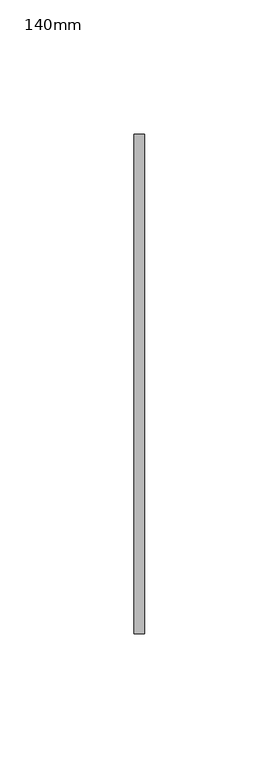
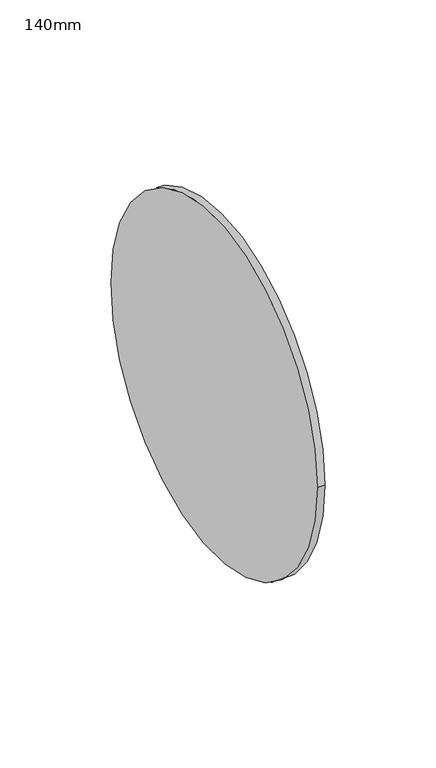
"""IFC4 building model written with IfcOpenShell, lengths in millimetres: pipe fitting geometry, PipeAccessory_HTA_CPVC_FlatGasketsForFlangeAdaptors : 140mm."""

from ifc_helpers import new_model, si_unit, point, frame, origin, origin_2d, place, context, project, spatial, circle_curve, trimmed, segment, composite_curve, outline, extrude, source, transform, mapped, element, save


def pipe_fitting_140mm_9ba9e9db(model_context):
    return source(origin(), model_context, "Body", "SweptSolid", [
        extrude(outline(composite_curve([segment(trimmed(circle_curve(origin_2d(), 93.0), [point((-93.0, 0.0))], [point((93.0, 0.0))], False, "CARTESIAN"), True, "CONTINUOUS"), segment(trimmed(circle_curve(origin_2d(), 93.0), [point((93.0, 0.0))], [point((-93.0, 0.0))], False, "CARTESIAN"), True, "CONTINUOUS")], self_intersect=False)), frame((-2.0, 0.0, 0.0), z_axis=(1.0, 0.0, 0.0), x_axis=(0.0, 1.0, 0.0)), (0.0, 0.0, 1.0), 4.0),
    ])


if __name__ == "__main__":
    model = new_model("IFC4")
    model_context = context("Model", 3, world=origin())
    ifc_project = project(units=[si_unit("LENGTHUNIT", "METRE", prefix="MILLI")], contexts=[model_context])
    site = spatial("IfcSite", under=ifc_project)
    building = spatial("IfcBuilding", under=site)
    placement = place(None, origin())
    pipe_fitting_140mm_shape = pipe_fitting_140mm_9ba9e9db(model_context)
    element("IfcPipeFitting", 1, ObjectType="PipeAccessory_HTA_CPVC_FlatGasketsForFlangeAdaptors : 140mm", at=placement, inside=building, context=model_context, shape_type="MappedRepresentation", body=[
        mapped(pipe_fitting_140mm_shape, transform((0.0, 0.0, 0.0), x_axis=(1.0, 0.0, 0.0), y_axis=(0.0, 1.0, 0.0), z_axis=(0.0, 0.0, 1.0))),
    ])
    save(model, "model.ifc")
